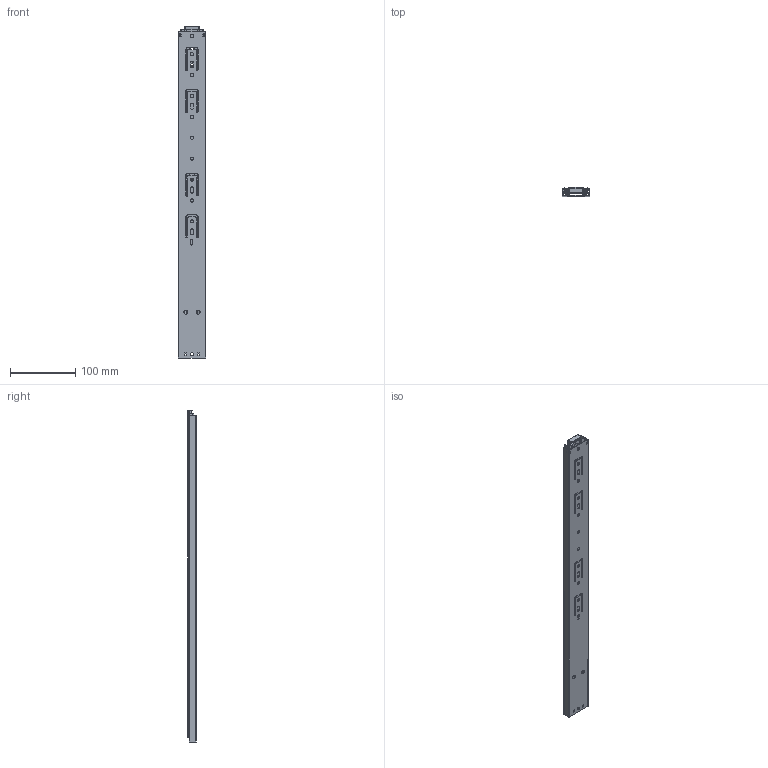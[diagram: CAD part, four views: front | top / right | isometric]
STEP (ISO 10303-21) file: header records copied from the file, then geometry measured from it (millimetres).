
FILE_DESCRIPTION(/* description */ (''),/* implementation_level */ '2;1');
FILE_NAME(/* name */ 'C:\Users\dmitruk\Documents\WORK\\X2\041D0410041F042004100412041B042F042E042904180415\X0\\Шариковые\Push to open\39196-500.stp',/* time_stamp */ '2020-07-27T14:01:17+03:00',/* author */ ('dmitruk'),/* organization */ (''),/* preprocessor_version */ 'ST-DEVELOPER v16.5',/* originating_system */ 'Autodesk Inventor 2017',/* authorisation */ '');
FILE_SCHEMA (('AUTOMOTIVE_DESIGN { 1 0 10303 214 3 1 1 }'));
Length unit declared in the file: millimetre
Products named in the file (5): 39196-500; нш400_1; 39196_12; нш400_3; 39196_2
Assembly tree (4 placements, depth 2):
  39196-500
    нш400_1
    39196_12
    нш400_3
    39196_2
Bounding box: 42 x 13 x 508 mm (x, y, z)
Volume: 80104.1 mm3; surface area: 155906.2 mm2
Topology: 4 solids, 4 shells, 724 faces, 2083 edges, 1365 vertices
Faces by surface type: plane 411, cylinder 265, sphere 48
Full cylindrical faces by diameter (mm): 4.5 x1, 4.8 x8, 5 x5, 6 x2, 8 x1
Entity records: 24316 total; most frequent: CARTESIAN_POINT 4404, DIRECTION 4157, ORIENTED_EDGE 4132, EDGE_CURVE 2066, LINE 1389, VECTOR 1389, AXIS2_PLACEMENT_3D 1384, VERTEX_POINT 1365
